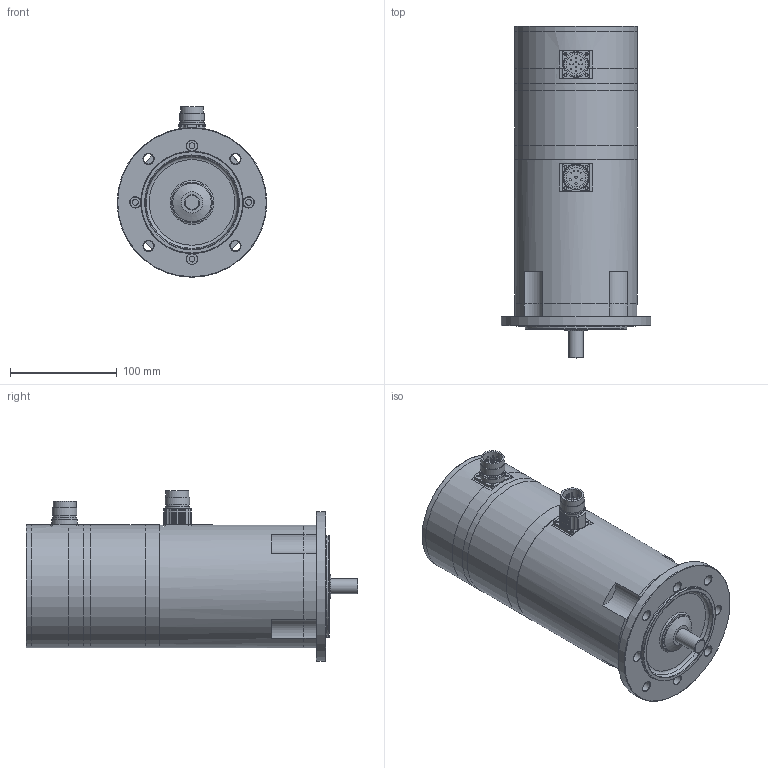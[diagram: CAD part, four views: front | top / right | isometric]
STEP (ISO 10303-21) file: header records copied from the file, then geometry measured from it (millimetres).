
FILE_DESCRIPTION(/* description */ (''),/* implementation_level */ '2;1');
FILE_NAME(/* name */ 'ksa_4x6e_mc_ixx',/* time_stamp */ '2007-03-13T14:54:36+01:00',/* author */ (''),/* organization */ (''),/* preprocessor_version */ 'ST-DEVELOPER v8',/* originating_system */ 'UNIGRAPHICS SOLUTIONS - UNIGRAPHICS 18.0',/* authorisation */ '');
FILE_SCHEMA (('AUTOMOTIVE_DESIGN { 1 2 10303 214 0 1 1 1 }'));
Length unit declared in the file: millimetre
Products named in the file (13): 06331201_0; DIN3760_org_A15x30x7_0; 014261_0; 014260_0; 064256_0; 089257_0; 064257_0; 089258_0; 114113_0; Gehaeuse SA 4 E_0; Rotor-SA 4 E_0; 114108_0; KSA444_E-MC-I27_0
Assembly tree (12 placements, depth 2):
  KSA444_E-MC-I27_0
    114108_0
    Rotor-SA 4 E_0
    Gehaeuse SA 4 E_0
    114113_0
    089258_0
    064257_0
    089257_0
    064256_0
    014260_0
    014261_0
    DIN3760_org_A15x30x7_0
    06331201_0
Bounding box: 140 x 310.5 x 159.5 mm (x, y, z)
Volume: 1515254.6 mm3; surface area: 361589.7 mm2
Topology: 12 solids, 12 shells, 547 faces, 1332 edges, 855 vertices
Faces by surface type: cylinder 258, plane 128, cone 111, torus 25, sphere 20, bspline 5
Full cylindrical faces by diameter (mm): 1 x16, 2 x4, 2.135 x4, 2.7 x8, 3.013 x12, 3.3 x4, 3.432 x13, 4.5 x20, 5.5 x4, 6 x1, 6.5 x4, 8 x20, 9.5 x4, 10 x4, 13.52 x1, 13.9 x1, 14 x1, 15 x2, 15.3 x2, 16 x1, 18 x2, 20 x4, 21 x2, 21.5 x2, 23 x5, 24 x2, 27 x1, 28 x1, 30 x4, 35 x2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
Entity records: 13961 total; most frequent: DIRECTION 2590, CARTESIAN_POINT 2366, ORIENTED_EDGE 1634, AXIS2_PLACEMENT_3D 1233, EDGE_LOOP 1086, EDGE_CURVE 817, FACE_BOUND 756, VERTEX_POINT 709
